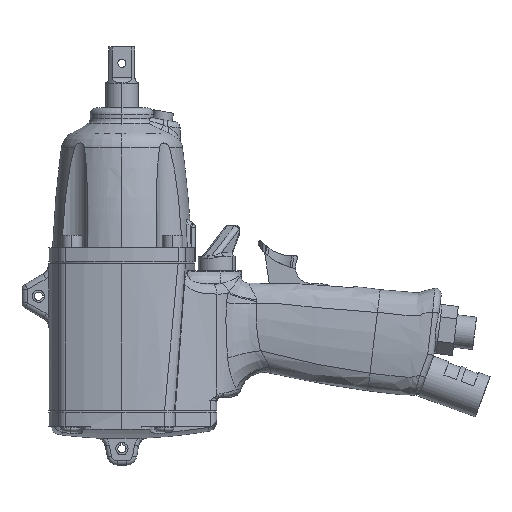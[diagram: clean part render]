
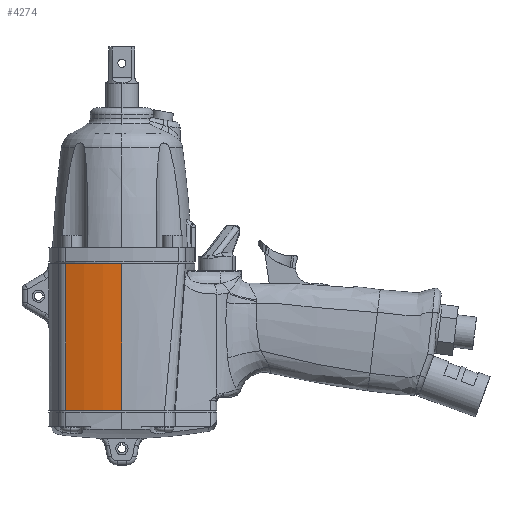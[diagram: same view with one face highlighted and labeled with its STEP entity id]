
A CAD part, left-side view. The second image highlights one B-rep face of the part: STEP entity #4274.
In plain terms, the highlighted cylindrical face has radius 80 mm (diameter 160 mm), a partial arc.
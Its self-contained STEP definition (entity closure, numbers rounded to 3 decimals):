
#4231 = EDGE_CURVE ( 'NONE', #4239, #11270, #31892, .T. ) ;
#4236 = VERTEX_POINT ( 'NONE', #31968 ) ;
#4238 = EDGE_CURVE ( 'NONE', #4236, #4239, #31967, .T. ) ;
#4239 = VERTEX_POINT ( 'NONE', #31932 ) ;
#4252 = EDGE_CURVE ( 'NONE', #4236, #11275, #33404, .T. ) ;
#4253 = ORIENTED_EDGE ( 'NONE', *, *, #11273, .T. ) ;
#4254 = ORIENTED_EDGE ( 'NONE', *, *, #4231, .F. ) ;
#4255 = ORIENTED_EDGE ( 'NONE', *, *, #4238, .F. ) ;
#4274 = ADVANCED_FACE ( 'NONE', ( #33443 ), #33494, .T. ) ;
#4275 = EDGE_LOOP ( 'NONE', ( #4276, #4253, #4254, #4255 ) ) ;
#4276 = ORIENTED_EDGE ( 'NONE', *, *, #4252, .T. ) ;
#11270 = VERTEX_POINT ( 'NONE', #91077 ) ;
#11273 = EDGE_CURVE ( 'NONE', #11275, #11270, #91076, .T. ) ;
#11275 = VERTEX_POINT ( 'NONE', #91071 ) ;
#31889 = DIRECTION ( 'NONE',  ( 0., 0., -1. ) ) ;
#31890 = VECTOR ( 'NONE', #31889, 1000. ) ;
#31891 = CARTESIAN_POINT ( 'NONE',  ( -36., 0., -36. ) ) ;
#31892 = LINE ( 'NONE', #31891, #31890 ) ;
#31932 = CARTESIAN_POINT ( 'NONE',  ( -36., 0., 0. ) ) ;
#31933 = DIRECTION ( 'NONE',  ( 1., 0., 0. ) ) ;
#31934 = DIRECTION ( 'NONE',  ( 0., 0., 1. ) ) ;
#31935 = AXIS2_PLACEMENT_3D ( 'NONE', #31966, #31934, #31933 ) ;
#31966 = CARTESIAN_POINT ( 'NONE',  ( 44., 0., 0. ) ) ;
#31967 = CIRCLE ( 'NONE', #31935, 80. ) ;
#31968 = CARTESIAN_POINT ( 'NONE',  ( -31.11, 27.542, 0. ) ) ;
#33401 = DIRECTION ( 'NONE',  ( 0., 0., -1. ) ) ;
#33402 = VECTOR ( 'NONE', #33401, 1000. ) ;
#33403 = CARTESIAN_POINT ( 'NONE',  ( -31.11, 27.542, 0. ) ) ;
#33404 = LINE ( 'NONE', #33403, #33402 ) ;
#33443 = FACE_OUTER_BOUND ( 'NONE', #4275, .T. ) ;
#33477 = DIRECTION ( 'NONE',  ( 0., 0., -1. ) ) ;
#33479 = CARTESIAN_POINT ( 'NONE',  ( 44., 0., 0. ) ) ;
#33492 = DIRECTION ( 'NONE',  ( -1., 0., 0. ) ) ;
#33493 = AXIS2_PLACEMENT_3D ( 'NONE', #33479, #33477, #33492 ) ;
#33494 = CYLINDRICAL_SURFACE ( 'NONE', #33493, 80. ) ;
#91071 = CARTESIAN_POINT ( 'NONE',  ( -31.11, 27.542, -72. ) ) ;
#91072 = DIRECTION ( 'NONE',  ( 1., 0., 0. ) ) ;
#91073 = DIRECTION ( 'NONE',  ( 0., 0., 1. ) ) ;
#91074 = CARTESIAN_POINT ( 'NONE',  ( 44., 0., -72. ) ) ;
#91075 = AXIS2_PLACEMENT_3D ( 'NONE', #91074, #91073, #91072 ) ;
#91076 = CIRCLE ( 'NONE', #91075, 80. ) ;
#91077 = CARTESIAN_POINT ( 'NONE',  ( -36., 0., -72. ) ) ;
